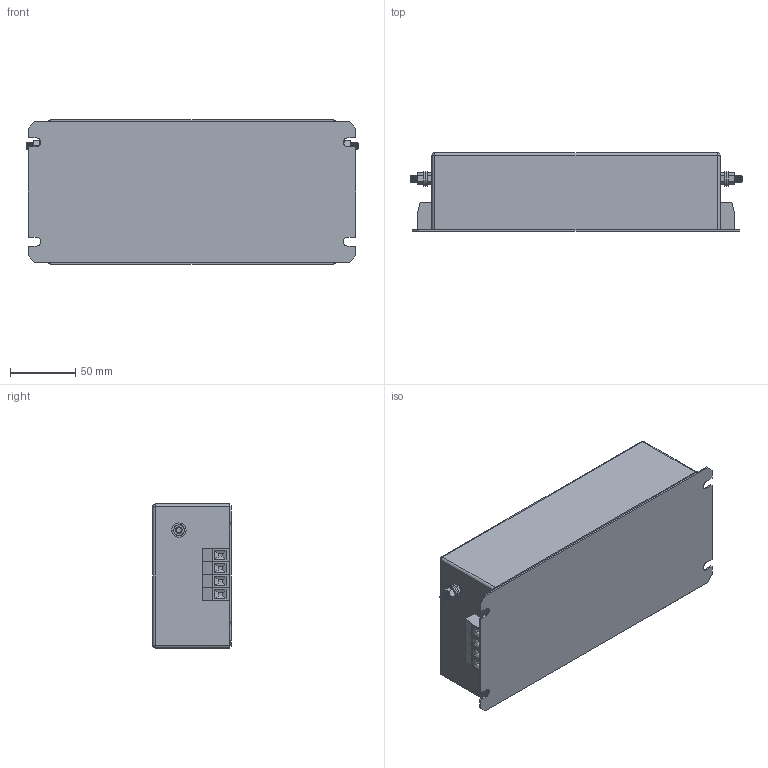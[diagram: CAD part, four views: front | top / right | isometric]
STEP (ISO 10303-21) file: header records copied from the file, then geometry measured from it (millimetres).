
FILE_DESCRIPTION (( 'STEP AP203' ), '1' );
FILE_NAME ('NF-4-6.STEP', '2022-05-17T15:21:44', ( '' ), ( '' ), 'SwSTEP 2.0', 'SolidWorks 2017', '' );
FILE_SCHEMA (( 'CONFIG_CONTROL_DESIGN' ));
Length unit declared in the file: millimetre
Products named in the file (8): M5x13 Earth post; hex nut style 1_am_B18.2.4.1M - Hex nut, Style 1,  M5 x 0.8 --D-N; VDFK-4; hex screw_am_B18.6.7M - M5 x 0.8 x 13 Indented HHMS --13S; flat washer narrow_am_B18.22M - Plain washer, 5 mm, narrow; VDFK4x2; NF-4-6 (DLC-C4); NF-4-6
Assembly tree (13 placements, depth 3):
  NF-4-6
    NF-4-6 (DLC-C4)
    M5x13 Earth post  x2
      hex screw_am_B18.6.7M - M5 x 0.8 x 13 Indented HHMS --13S
      flat washer narrow_am_B18.22M - Plain washer, 5 mm, narrow
      hex nut style 1_am_B18.2.4.1M - Hex nut, Style 1,  M5 x 0.8 --D-N
    VDFK4x2  x4
      VDFK-4
Bounding box: 253.6 x 60 x 110 mm (x, y, z)
Volume: 1424438.6 mm3; surface area: 132794.3 mm2
Topology: 17 solids, 17 shells, 668 faces, 1638 edges, 1036 vertices
Faces by surface type: plane 338, cone 176, cylinder 150, sphere 4
Entity records: 8475 total; most frequent: CARTESIAN_POINT 1412, DIRECTION 1377, ORIENTED_EDGE 1222, EDGE_CURVE 611, AXIS2_PLACEMENT_3D 539, VERTEX_POINT 382, VECTOR 299, LINE 299
